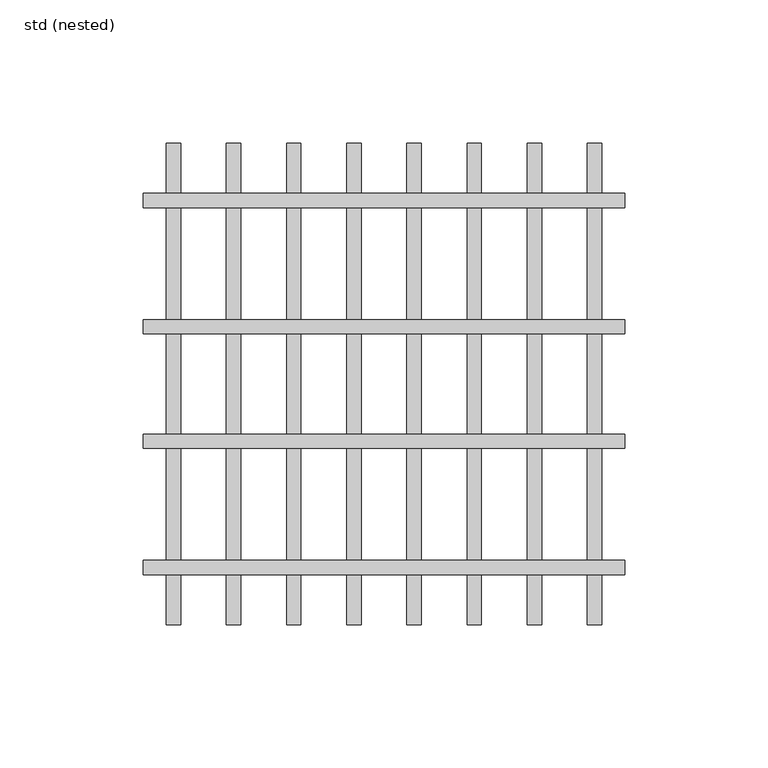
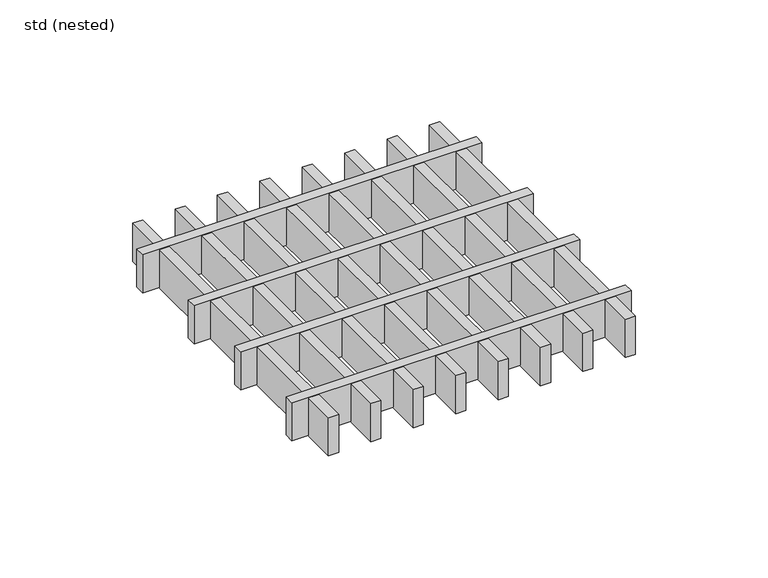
"""IFC4 building model written with IfcOpenShell, lengths in millimetres: sanitary terminal geometry, ZZZ_do not use_PF_ST_UN_square grating for hygienic gully_ACO : std (nested)."""

from ifc_helpers import new_model, si_unit, frame, origin, place, context, project, spatial, polyline, outline, extrude, source, transform, mapped, element, save


def std_nested_413075a2(model_context):
    return source(origin(), model_context, "Body", "SweptSolid", [
        extrude(outline(polyline([(-84.0, -66.5), (-84.0, -61.5), (84.0, -61.5), (84.0, -66.5), (-84.0, -66.5)])), frame((0.0, 0.0, -20.0), z_axis=(0.0, 0.0, 1.0), x_axis=(1.0, 0.0, 0.0)), (0.0, 0.0, 1.0), 20.0),
        extrude(outline(polyline([(-84.0, 61.5), (-84.0, 66.5), (84.0, 66.5), (84.0, 61.5), (-84.0, 61.5)])), frame((0.0, 0.0, -20.0), z_axis=(0.0, 0.0, 1.0), x_axis=(1.0, 0.0, 0.0)), (0.0, 0.0, 1.0), 20.0),
        extrude(outline(polyline([(-84.0, 17.5), (-84.0, 22.5), (84.0, 22.5), (84.0, 17.5), (-84.0, 17.5)])), frame((0.0, 0.0, -20.0), z_axis=(0.0, 0.0, 1.0), x_axis=(1.0, 0.0, 0.0)), (0.0, 0.0, 1.0), 20.0),
        extrude(outline(polyline([(-84.0, -22.5), (-84.0, -17.5), (84.0, -17.5), (84.0, -22.5), (-84.0, -22.5)])), frame((0.0, 0.0, -20.0), z_axis=(0.0, 0.0, 1.0), x_axis=(1.0, 0.0, 0.0)), (0.0, 0.0, 1.0), 20.0),
        extrude(outline(polyline([(-71.0, -84.0), (-76.0, -84.0), (-76.0, 84.0), (-71.0, 84.0), (-71.0, -84.0)])), frame((0.0, 0.0, -20.0), z_axis=(0.0, 0.0, 1.0), x_axis=(1.0, 0.0, 0.0)), (0.0, 0.0, 1.0), 20.0),
        extrude(outline(polyline([(-50.0, -84.0), (-55.0, -84.0), (-55.0, 84.0), (-50.0, 84.0), (-50.0, -84.0)])), frame((0.0, 0.0, -20.0), z_axis=(0.0, 0.0, 1.0), x_axis=(1.0, 0.0, 0.0)), (0.0, 0.0, 1.0), 20.0),
        extrude(outline(polyline([(-29.0, -84.0), (-34.0, -84.0), (-34.0, 84.0), (-29.0, 84.0), (-29.0, -84.0)])), frame((0.0, 0.0, -20.0), z_axis=(0.0, 0.0, 1.0), x_axis=(1.0, 0.0, 0.0)), (0.0, 0.0, 1.0), 20.0),
        extrude(outline(polyline([(76.0, -84.0), (71.0, -84.0), (71.0, 84.0), (76.0, 84.0), (76.0, -84.0)])), frame((0.0, 0.0, -20.0), z_axis=(0.0, 0.0, 1.0), x_axis=(1.0, 0.0, 0.0)), (0.0, 0.0, 1.0), 20.0),
        extrude(outline(polyline([(55.0, -84.0), (50.0, -84.0), (50.0, 84.0), (55.0, 84.0), (55.0, -84.0)])), frame((0.0, 0.0, -20.0), z_axis=(0.0, 0.0, 1.0), x_axis=(1.0, 0.0, 0.0)), (0.0, 0.0, 1.0), 20.0),
        extrude(outline(polyline([(34.0, -84.0), (29.0, -84.0), (29.0, 84.0), (34.0, 84.0), (34.0, -84.0)])), frame((0.0, 0.0, -20.0), z_axis=(0.0, 0.0, 1.0), x_axis=(1.0, 0.0, 0.0)), (0.0, 0.0, 1.0), 20.0),
        extrude(outline(polyline([(-8.0, -84.0), (-13.0, -84.0), (-13.0, 84.0), (-8.0, 84.0), (-8.0, -84.0)])), frame((0.0, 0.0, -20.0), z_axis=(0.0, 0.0, 1.0), x_axis=(1.0, 0.0, 0.0)), (0.0, 0.0, 1.0), 20.0),
        extrude(outline(polyline([(13.0, -84.0), (8.0, -84.0), (8.0, 84.0), (13.0, 84.0), (13.0, -84.0)])), frame((0.0, 0.0, -20.0), z_axis=(0.0, 0.0, 1.0), x_axis=(1.0, 0.0, 0.0)), (0.0, 0.0, 1.0), 20.0),
    ])


if __name__ == "__main__":
    model = new_model("IFC4")
    model_context = context("Model", 3, world=origin())
    ifc_project = project(units=[si_unit("LENGTHUNIT", "METRE", prefix="MILLI")], contexts=[model_context])
    site = spatial("IfcSite", under=ifc_project)
    building = spatial("IfcBuilding", under=site)
    placement = place(None, origin())
    std_nested_shape = std_nested_413075a2(model_context)
    element("IfcSanitaryTerminal", 1, ObjectType="ZZZ_do not use_PF_ST_UN_square grating for hygienic gully_ACO : std (nested)", at=placement, inside=building, context=model_context, shape_type="MappedRepresentation", body=[
        mapped(std_nested_shape, transform((0.0, 0.0, 0.0), x_axis=(1.0, 0.0, 0.0), y_axis=(0.0, 1.0, 0.0), z_axis=(0.0, 0.0, 1.0))),
    ])
    save(model, "model.ifc")
